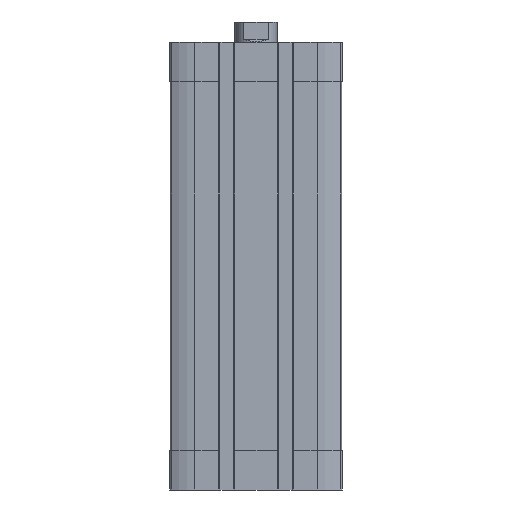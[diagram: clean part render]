
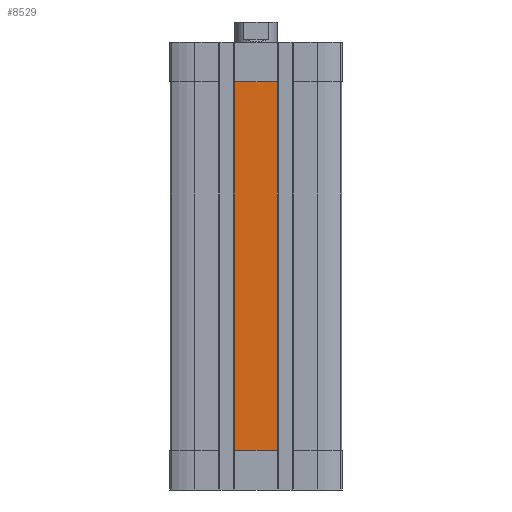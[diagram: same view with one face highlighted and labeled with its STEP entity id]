
A CAD part, front view. The second image highlights one B-rep face of the part: STEP entity #8529.
In plain terms, the highlighted planar face has unit normal (0, -1, 0).
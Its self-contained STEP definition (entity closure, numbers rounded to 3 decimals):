
#681 = DIRECTION ( 'NONE',  ( 0., 0., -1. ) ) ;
#1429 = ORIENTED_EDGE ( 'NONE', *, *, #9774, .T. ) ;
#2496 = EDGE_CURVE ( 'NONE', #5694, #10665, #3056, .T. ) ;
#2772 = CARTESIAN_POINT ( 'NONE',  ( -8., -32.5, -155. ) ) ;
#2988 = LINE ( 'NONE', #12885, #12031 ) ;
#3056 = LINE ( 'NONE', #2772, #12109 ) ;
#3287 = AXIS2_PLACEMENT_3D ( 'NONE', #5385, #6528, #681 ) ;
#3492 = DIRECTION ( 'NONE',  ( 0., 0., -1. ) ) ;
#4049 = CARTESIAN_POINT ( 'NONE',  ( -8., -32.5, -155. ) ) ;
#4102 = DIRECTION ( 'NONE',  ( 1., 0., 0. ) ) ;
#5385 = CARTESIAN_POINT ( 'NONE',  ( -8., -32.5, -155. ) ) ;
#5694 = VERTEX_POINT ( 'NONE', #9211 ) ;
#6510 = FACE_OUTER_BOUND ( 'NONE', #12908, .T. ) ;
#6528 = DIRECTION ( 'NONE',  ( 0., -1., 0. ) ) ;
#6950 = VECTOR ( 'NONE', #15262, 1000. ) ;
#7009 = DIRECTION ( 'NONE',  ( -1., 0., 0. ) ) ;
#7032 = CARTESIAN_POINT ( 'NONE',  ( 8., -32.5, -155. ) ) ;
#7445 = CARTESIAN_POINT ( 'NONE',  ( 8., -32.5, -155. ) ) ;
#7615 = LINE ( 'NONE', #4049, #10387 ) ;
#8076 = CARTESIAN_POINT ( 'NONE',  ( 8., -32.5, -15. ) ) ;
#8462 = EDGE_CURVE ( 'NONE', #10665, #12596, #7615, .T. ) ;
#8529 = ADVANCED_FACE ( 'NONE', ( #6510 ), #14806, .T. ) ;
#8709 = ORIENTED_EDGE ( 'NONE', *, *, #12385, .T. ) ;
#9095 = ORIENTED_EDGE ( 'NONE', *, *, #2496, .T. ) ;
#9109 = CARTESIAN_POINT ( 'NONE',  ( -8., -32.5, -155. ) ) ;
#9211 = CARTESIAN_POINT ( 'NONE',  ( -8., -32.5, -15. ) ) ;
#9774 = EDGE_CURVE ( 'NONE', #10704, #5694, #2988, .T. ) ;
#10107 = LINE ( 'NONE', #7032, #6950 ) ;
#10387 = VECTOR ( 'NONE', #4102, 1000. ) ;
#10665 = VERTEX_POINT ( 'NONE', #9109 ) ;
#10704 = VERTEX_POINT ( 'NONE', #8076 ) ;
#12031 = VECTOR ( 'NONE', #7009, 1000. ) ;
#12109 = VECTOR ( 'NONE', #3492, 1000. ) ;
#12385 = EDGE_CURVE ( 'NONE', #12596, #10704, #10107, .T. ) ;
#12596 = VERTEX_POINT ( 'NONE', #7445 ) ;
#12885 = CARTESIAN_POINT ( 'NONE',  ( 0., -32.5, -15. ) ) ;
#12908 = EDGE_LOOP ( 'NONE', ( #14247, #8709, #1429, #9095 ) ) ;
#14247 = ORIENTED_EDGE ( 'NONE', *, *, #8462, .T. ) ;
#14806 = PLANE ( 'NONE',  #3287 ) ;
#15262 = DIRECTION ( 'NONE',  ( 0., 0., 1. ) ) ;
